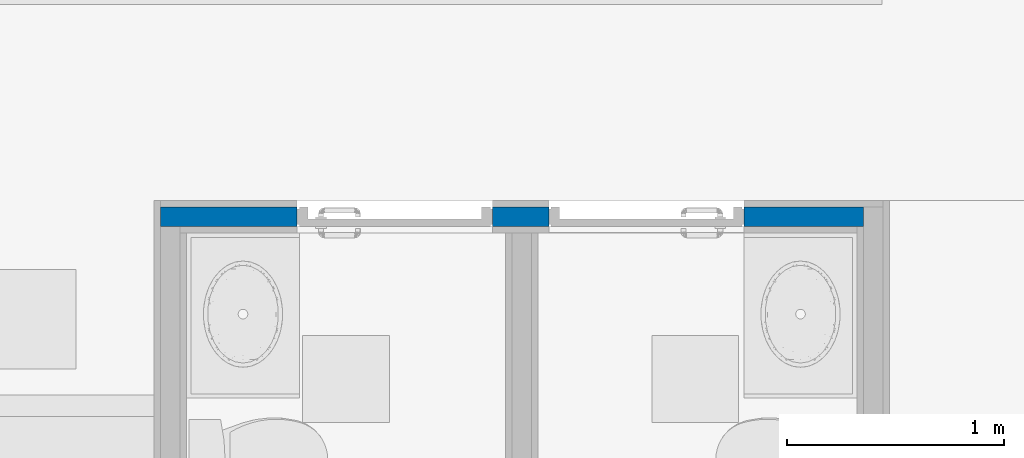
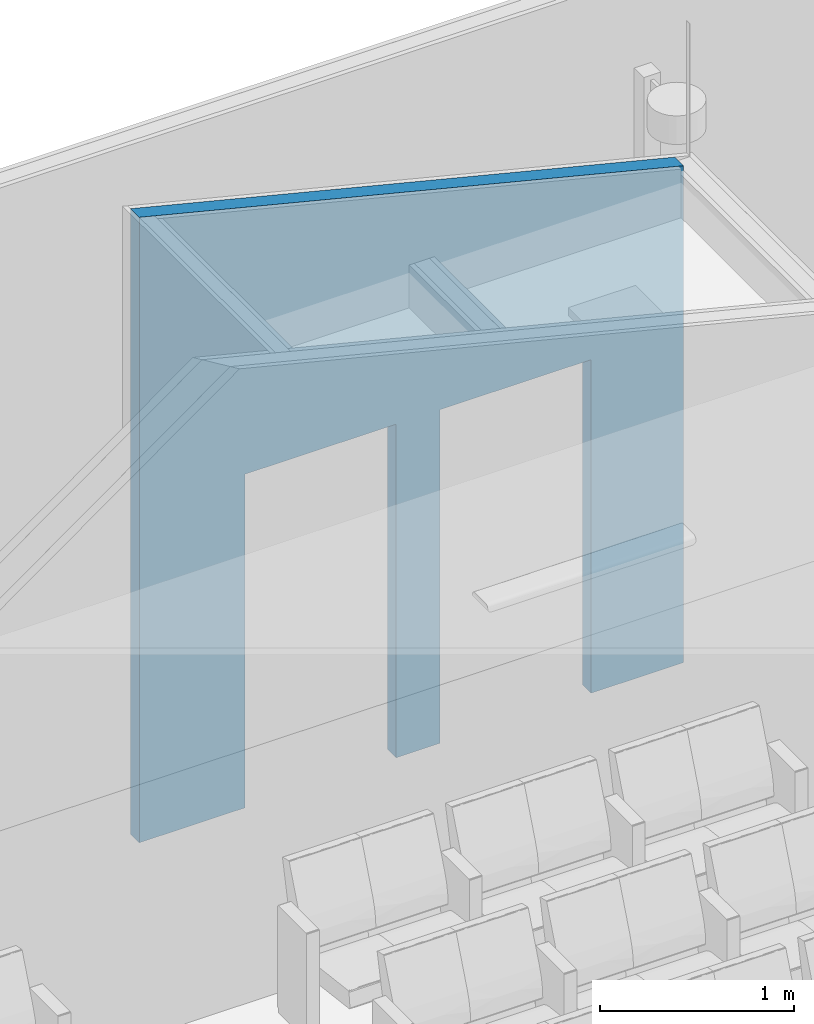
# One storey, part 34 of 155: 1 wall, 2 openings.
"""IFC2X3 building model written with IfcOpenShell, lengths in metres."""

from ifc_helpers import new_model, entity, si_unit, converted_unit, derived_unit, direction, frame, frame_2d, origin, place, context, subcontext, project, spatial, polyline, rectangle, extrude, clip, bounded_halfspace, material, layer, layer_set, layer_usage, type_object, element, save


model = new_model("IFC2X3")

# Units and contexts
model_context = context("Model", 3, precision=1e-05, world=origin(), true_north=direction((6.12303176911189e-17, 1.0)))
body_context = subcontext(model_context, "Body", "Model", "MODEL_VIEW")
ifc_project = project(units=[si_unit("LENGTHUNIT", "METRE"), si_unit("AREAUNIT", "SQUARE_METRE"), si_unit("VOLUMEUNIT", "CUBIC_METRE"), converted_unit("PLANEANGLEUNIT", "DEGREE", entity("IfcRatioMeasure", 0.0174532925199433), si_unit("PLANEANGLEUNIT", "RADIAN"), dimensions=[0, 0, 0, 0, 0, 0, 0]), si_unit("MASSUNIT", "GRAM", prefix="KILO"), derived_unit("MASSDENSITYUNIT", [(si_unit("MASSUNIT", "GRAM", prefix="KILO"), 1), (si_unit("LENGTHUNIT", "METRE"), -3)]), si_unit("TIMEUNIT", "SECOND"), si_unit("FREQUENCYUNIT", "HERTZ"), si_unit("THERMODYNAMICTEMPERATUREUNIT", "DEGREE_CELSIUS"), derived_unit("THERMALTRANSMITTANCEUNIT", [(si_unit("MASSUNIT", "GRAM", prefix="KILO"), 1), (si_unit("THERMODYNAMICTEMPERATUREUNIT", "KELVIN"), -1), (si_unit("TIMEUNIT", "SECOND"), -3)]), derived_unit("VOLUMETRICFLOWRATEUNIT", [(si_unit("LENGTHUNIT", "METRE"), 3), (si_unit("TIMEUNIT", "SECOND"), -1)]), si_unit("ELECTRICCURRENTUNIT", "AMPERE"), si_unit("ELECTRICVOLTAGEUNIT", "VOLT"), si_unit("POWERUNIT", "WATT"), si_unit("FORCEUNIT", "NEWTON", prefix="KILO"), si_unit("ILLUMINANCEUNIT", "LUX"), si_unit("LUMINOUSFLUXUNIT", "LUMEN"), si_unit("LUMINOUSINTENSITYUNIT", "CANDELA"), derived_unit("USERDEFINED", [(si_unit("MASSUNIT", "GRAM", prefix="KILO"), -1), (si_unit("LENGTHUNIT", "METRE"), -2), (si_unit("TIMEUNIT", "SECOND"), 3), (si_unit("LUMINOUSFLUXUNIT", "LUMEN"), 1)]), derived_unit("LINEARVELOCITYUNIT", [(si_unit("LENGTHUNIT", "METRE"), 1), (si_unit("TIMEUNIT", "SECOND"), -1)]), si_unit("PRESSUREUNIT", "PASCAL"), derived_unit("USERDEFINED", [(si_unit("LENGTHUNIT", "METRE"), -2), (si_unit("MASSUNIT", "GRAM", prefix="KILO"), 1), (si_unit("TIMEUNIT", "SECOND"), -2)])], contexts=[model_context])

# Site, building, storey
site_placement = place(None, frame((26.9889013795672, -17.5624287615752, 0.0)))
site = spatial("IfcSite", under=ifc_project, at=site_placement, Name="Default", CompositionType="ELEMENT")
building_placement = place(site_placement, origin())
building = spatial("IfcBuilding", under=site, at=building_placement, Name="C. C. L. Monsenhor Antônio Sampaio", CompositionType="ELEMENT")
storey_placement = place(building_placement, frame((0.0, 0.0, 1.19999999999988)))
storey = spatial("IfcBuildingStorey", under=building, at=storey_placement, Name="Nível 1.2", CompositionType="ELEMENT", Elevation=1.19999999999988)

# Wall, openings
ifc_material = material(Name="ALVENARIA")
ifc_layer = layer(ifc_material, 0.09)
ifc_layer_set = layer_set([ifc_layer], Name="Parede básica:ENucleo parede 15cm")
ifc_layer_usage = layer_usage(ifc_layer_set, "AXIS2", "NEGATIVE", 0.045)
wall_type = type_object("IfcWallType", Name="Parede básica:ENucleo parede 15cm", PredefinedType="STANDARD", material=ifc_layer_set)
wall_placement = place(storey_placement, frame((-5.96055229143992, -8.53189236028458, 0.0), z_axis=(0.0, 0.0, 1.0), x_axis=(-1.0, 0.0, 0.0)))
wall = element("IfcWallStandardCase", 1, at=wall_placement, inside=storey, type_object=wall_type, material=ifc_layer_usage, Name="Parede básica:ENucleo parede 15cm", ObjectType="Parede básica:ENucleo parede 15cm", context=body_context, shape_type="Clipping", body=[
    clip(extrude(rectangle(XDim=3.24, YDim=0.089999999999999, at=frame_2d((1.62, -1.04083408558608e-16), x_axis=(-1.0, 0.0))), origin(), (0.0, 0.0, 1.0), 3.93818098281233), bounded_halfspace(frame((0.0, -0.0450000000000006, 3.12818098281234), z_axis=(-0.242535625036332, 0.0, 0.970142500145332), x_axis=(0.0, -1.0, 0.0)), False, frame((0.0, -0.0450000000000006, 3.12818098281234)), polyline([(0.0, 0.0), (3.24, 0.0), (3.24, 0.0900000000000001), (3.15, 0.0900000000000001), (0.0299999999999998, 0.0900000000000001), (0.0, 0.0900000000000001), (0.0, 0.0)]))),
])
opening_1_placement = place(wall_placement, frame((0.550000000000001, -0.0449999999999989, 0.0)))
element("IfcOpeningElement", 2, at=opening_1_placement, cuts=wall, Name="Porta levantamento:90 x 211 AZUL:1", ObjectType="Opening", context=body_context, shape_type="SweptSolid", body=[
    extrude(rectangle(XDim=2.09999999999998, YDim=0.9, at=frame_2d((1.04999999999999, 0.45), x_axis=(1.0, 0.0))), frame((0.0, 0.0, 0.0), z_axis=(0.0, 1.0, 0.0), x_axis=(0.0, 0.0, 1.0)), (0.0, 0.0, 1.0), 0.09),
])
opening_2_placement = place(wall_placement, frame((1.71, -0.044999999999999, 0.0)))
element("IfcOpeningElement", 3, at=opening_2_placement, cuts=wall, Name="Porta levantamento:90 x 211 AZUL:1", ObjectType="Opening", context=body_context, shape_type="SweptSolid", body=[
    extrude(rectangle(XDim=2.09999999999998, YDim=0.9, at=frame_2d((1.04999999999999, 0.45), x_axis=(1.0, 0.0))), frame((0.0, 0.0, 0.0), z_axis=(0.0, 1.0, 0.0), x_axis=(0.0, 0.0, 1.0)), (0.0, 0.0, 1.0), 0.09),
])

save(model, "model.ifc")
